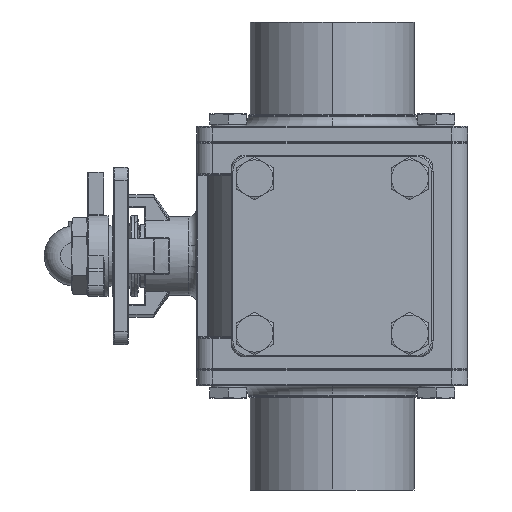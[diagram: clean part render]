
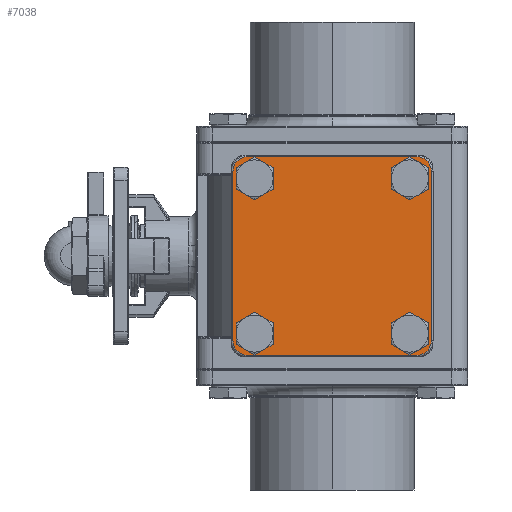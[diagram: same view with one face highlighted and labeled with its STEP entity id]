
A CAD part, left-side view. The second image highlights one B-rep face of the part: STEP entity #7038.
In plain terms, the highlighted planar face has unit normal (-1, 0, 0) as drawn and (0, 0, 1) by its records, which use the part's own axes.
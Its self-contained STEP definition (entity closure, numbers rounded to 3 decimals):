
#729 = ORIENTED_EDGE ( 'NONE', *, *, #22747, .F. ) ;
#739 = CARTESIAN_POINT ( 'NONE',  ( 48.083, -48.083, 10. ) ) ;
#744 = ORIENTED_EDGE ( 'NONE', *, *, #35145, .T. ) ;
#1346 = DIRECTION ( 'NONE',  ( 0., 0., 1. ) ) ;
#1520 = EDGE_LOOP ( 'NONE', ( #5071, #9667 ) ) ;
#1584 = EDGE_CURVE ( 'NONE', #9190, #19817, #22668, .T. ) ;
#1738 = CIRCLE ( 'NONE', #21308, 8.75 ) ;
#2297 = DIRECTION ( 'NONE',  ( 1., 0., 0. ) ) ;
#2320 = EDGE_LOOP ( 'NONE', ( #32993, #33520, #34199, #744, #34180, #22638, #8288, #18084 ) ) ;
#2540 = CARTESIAN_POINT ( 'NONE',  ( 39.333, -48.083, 10. ) ) ;
#2730 = DIRECTION ( 'NONE',  ( 1., 0., 0. ) ) ;
#2756 = CIRCLE ( 'NONE', #6470, 9. ) ;
#2841 = VERTEX_POINT ( 'NONE', #27853 ) ;
#3046 = FACE_BOUND ( 'NONE', #1520, .T. ) ;
#3450 = EDGE_CURVE ( 'NONE', #23758, #17624, #20880, .T. ) ;
#3503 = CARTESIAN_POINT ( 'NONE',  ( 52.5, -52.5, 10. ) ) ;
#4050 = DIRECTION ( 'NONE',  ( 0., -1., 0. ) ) ;
#4531 = CARTESIAN_POINT ( 'NONE',  ( -61.5, -52.5, 10. ) ) ;
#4603 = ORIENTED_EDGE ( 'NONE', *, *, #10682, .F. ) ;
#4753 = FACE_BOUND ( 'NONE', #28253, .T. ) ;
#4836 = AXIS2_PLACEMENT_3D ( 'NONE', #20680, #1346, #12302 ) ;
#5071 = ORIENTED_EDGE ( 'NONE', *, *, #5407, .F. ) ;
#5407 = EDGE_CURVE ( 'NONE', #19588, #32014, #23297, .T. ) ;
#6126 = LINE ( 'NONE', #16475, #15959 ) ;
#6422 = VERTEX_POINT ( 'NONE', #32007 ) ;
#6470 = AXIS2_PLACEMENT_3D ( 'NONE', #3503, #8950, #9071 ) ;
#6614 = EDGE_LOOP ( 'NONE', ( #4603, #24464 ) ) ;
#7038 = ADVANCED_FACE ( 'NONE', ( #27332, #10735, #4753, #3046, #11094 ), #27242, .T. ) ;
#7603 = CARTESIAN_POINT ( 'NONE',  ( -48.083, -48.083, 10. ) ) ;
#7764 = LINE ( 'NONE', #28462, #27828 ) ;
#7786 = DIRECTION ( 'NONE',  ( 1., 0., 0. ) ) ;
#7927 = CIRCLE ( 'NONE', #27683, 9. ) ;
#7944 = DIRECTION ( 'NONE',  ( 1., 0., 0. ) ) ;
#8288 = ORIENTED_EDGE ( 'NONE', *, *, #28904, .T. ) ;
#8350 = CARTESIAN_POINT ( 'NONE',  ( 52.5, -61.5, 10. ) ) ;
#8512 = LINE ( 'NONE', #31297, #31183 ) ;
#8607 = DIRECTION ( 'NONE',  ( 1., 0., 0. ) ) ;
#8826 = DIRECTION ( 'NONE',  ( 1., 0., 0. ) ) ;
#8950 = DIRECTION ( 'NONE',  ( 0., 0., 1. ) ) ;
#9071 = DIRECTION ( 'NONE',  ( 1., 0., 0. ) ) ;
#9096 = VERTEX_POINT ( 'NONE', #8350 ) ;
#9190 = VERTEX_POINT ( 'NONE', #30922 ) ;
#9667 = ORIENTED_EDGE ( 'NONE', *, *, #34666, .F. ) ;
#9671 = DIRECTION ( 'NONE',  ( -1., 0., 0. ) ) ;
#9679 = DIRECTION ( 'NONE',  ( 0., 0., 1. ) ) ;
#9751 = VECTOR ( 'NONE', #4050, 1000. ) ;
#10261 = CARTESIAN_POINT ( 'NONE',  ( -56.833, 48.083, 10. ) ) ;
#10541 = VERTEX_POINT ( 'NONE', #16600 ) ;
#10682 = EDGE_CURVE ( 'NONE', #24546, #10541, #29809, .T. ) ;
#10735 = FACE_BOUND ( 'NONE', #6614, .T. ) ;
#10879 = CARTESIAN_POINT ( 'NONE',  ( 48.083, 48.083, 10. ) ) ;
#11094 = FACE_BOUND ( 'NONE', #28350, .T. ) ;
#11117 = CARTESIAN_POINT ( 'NONE',  ( -48.083, 48.083, 10. ) ) ;
#11320 = CARTESIAN_POINT ( 'NONE',  ( 48.083, -48.083, 10. ) ) ;
#12230 = CARTESIAN_POINT ( 'NONE',  ( 52.5, 61.5, 10. ) ) ;
#12249 = EDGE_CURVE ( 'NONE', #29686, #13501, #7927, .T. ) ;
#12302 = DIRECTION ( 'NONE',  ( 1., 0., 0. ) ) ;
#12488 = AXIS2_PLACEMENT_3D ( 'NONE', #11117, #19498, #8607 ) ;
#13077 = EDGE_CURVE ( 'NONE', #10541, #24546, #22400, .T. ) ;
#13501 = VERTEX_POINT ( 'NONE', #12230 ) ;
#13540 = DIRECTION ( 'NONE',  ( 0., 0., 1. ) ) ;
#13617 = DIRECTION ( 'NONE',  ( 0., 0., 1. ) ) ;
#13720 = EDGE_CURVE ( 'NONE', #9096, #2841, #2756, .T. ) ;
#13788 = CARTESIAN_POINT ( 'NONE',  ( 61.5, 52.5, 10. ) ) ;
#14057 = ORIENTED_EDGE ( 'NONE', *, *, #27663, .F. ) ;
#14449 = AXIS2_PLACEMENT_3D ( 'NONE', #7603, #13540, #7944 ) ;
#14557 = DIRECTION ( 'NONE',  ( 0., 0., 1. ) ) ;
#14571 = VERTEX_POINT ( 'NONE', #33357 ) ;
#14862 = CARTESIAN_POINT ( 'NONE',  ( -61.5, -52.5, 10. ) ) ;
#15513 = ORIENTED_EDGE ( 'NONE', *, *, #26128, .F. ) ;
#15592 = CIRCLE ( 'NONE', #16885, 8.75 ) ;
#15959 = VECTOR ( 'NONE', #19238, 1000. ) ;
#16148 = CARTESIAN_POINT ( 'NONE',  ( 52.5, -52.5, 10. ) ) ;
#16475 = CARTESIAN_POINT ( 'NONE',  ( 52.5, -61.5, 10. ) ) ;
#16600 = CARTESIAN_POINT ( 'NONE',  ( -39.333, -48.083, 10. ) ) ;
#16885 = AXIS2_PLACEMENT_3D ( 'NONE', #27192, #24458, #24344 ) ;
#17287 = AXIS2_PLACEMENT_3D ( 'NONE', #18642, #32465, #2297 ) ;
#17624 = VERTEX_POINT ( 'NONE', #4531 ) ;
#17800 = CARTESIAN_POINT ( 'NONE',  ( 39.333, 48.083, 10. ) ) ;
#17944 = VERTEX_POINT ( 'NONE', #19051 ) ;
#17946 = CARTESIAN_POINT ( 'NONE',  ( 56.833, -48.083, 10. ) ) ;
#18084 = ORIENTED_EDGE ( 'NONE', *, *, #13720, .T. ) ;
#18642 = CARTESIAN_POINT ( 'NONE',  ( -52.5, 52.5, 10. ) ) ;
#19051 = CARTESIAN_POINT ( 'NONE',  ( -52.5, 61.5, 10. ) ) ;
#19067 = DIRECTION ( 'NONE',  ( 0., 0., 1. ) ) ;
#19238 = DIRECTION ( 'NONE',  ( 1., 0., 0. ) ) ;
#19498 = DIRECTION ( 'NONE',  ( 0., 0., 1. ) ) ;
#19588 = VERTEX_POINT ( 'NONE', #2540 ) ;
#19690 = DIRECTION ( 'NONE',  ( 1., 0., 0. ) ) ;
#19817 = VERTEX_POINT ( 'NONE', #17800 ) ;
#19841 = DIRECTION ( 'NONE',  ( 0., 0., 1. ) ) ;
#19845 = DIRECTION ( 'NONE',  ( 1., 0., 0. ) ) ;
#20680 = CARTESIAN_POINT ( 'NONE',  ( -48.083, -48.083, 10. ) ) ;
#20880 = LINE ( 'NONE', #14862, #9751 ) ;
#20957 = CIRCLE ( 'NONE', #17287, 9. ) ;
#21308 = AXIS2_PLACEMENT_3D ( 'NONE', #739, #14557, #19845 ) ;
#21333 = DIRECTION ( 'NONE',  ( 1., 0., 0. ) ) ;
#21569 = DIRECTION ( 'NONE',  ( 0., 0., 1. ) ) ;
#22059 = CARTESIAN_POINT ( 'NONE',  ( -52.5, -52.5, 10. ) ) ;
#22386 = CIRCLE ( 'NONE', #31174, 8.75 ) ;
#22400 = CIRCLE ( 'NONE', #14449, 8.75 ) ;
#22638 = ORIENTED_EDGE ( 'NONE', *, *, #30009, .T. ) ;
#22668 = CIRCLE ( 'NONE', #29836, 8.75 ) ;
#22747 = EDGE_CURVE ( 'NONE', #34925, #14571, #22386, .T. ) ;
#23297 = CIRCLE ( 'NONE', #27818, 8.75 ) ;
#23758 = VERTEX_POINT ( 'NONE', #24493 ) ;
#24344 = DIRECTION ( 'NONE',  ( 1., 0., 0. ) ) ;
#24458 = DIRECTION ( 'NONE',  ( 0., 0., 1. ) ) ;
#24464 = ORIENTED_EDGE ( 'NONE', *, *, #13077, .F. ) ;
#24493 = CARTESIAN_POINT ( 'NONE',  ( -61.5, 52.5, 10. ) ) ;
#24546 = VERTEX_POINT ( 'NONE', #33490 ) ;
#25497 = DIRECTION ( 'NONE',  ( 0., 1., 0. ) ) ;
#25978 = ORIENTED_EDGE ( 'NONE', *, *, #1584, .F. ) ;
#26128 = EDGE_CURVE ( 'NONE', #14571, #34925, #28085, .T. ) ;
#26409 = DIRECTION ( 'NONE',  ( 1., 0., 0. ) ) ;
#26684 = AXIS2_PLACEMENT_3D ( 'NONE', #22059, #19067, #2730 ) ;
#27192 = CARTESIAN_POINT ( 'NONE',  ( 48.083, 48.083, 10. ) ) ;
#27242 = PLANE ( 'NONE',  #33010 ) ;
#27332 = FACE_OUTER_BOUND ( 'NONE', #2320, .T. ) ;
#27663 = EDGE_CURVE ( 'NONE', #19817, #9190, #15592, .T. ) ;
#27683 = AXIS2_PLACEMENT_3D ( 'NONE', #31547, #9679, #26409 ) ;
#27818 = AXIS2_PLACEMENT_3D ( 'NONE', #11320, #19841, #8826 ) ;
#27828 = VECTOR ( 'NONE', #25497, 1000. ) ;
#27853 = CARTESIAN_POINT ( 'NONE',  ( 61.5, -52.5, 10. ) ) ;
#28085 = CIRCLE ( 'NONE', #12488, 8.75 ) ;
#28253 = EDGE_LOOP ( 'NONE', ( #14057, #25978 ) ) ;
#28350 = EDGE_LOOP ( 'NONE', ( #729, #15513 ) ) ;
#28366 = DIRECTION ( 'NONE',  ( 0., 0., 1. ) ) ;
#28462 = CARTESIAN_POINT ( 'NONE',  ( 61.5, 52.5, 10. ) ) ;
#28904 = EDGE_CURVE ( 'NONE', #6422, #9096, #6126, .T. ) ;
#29686 = VERTEX_POINT ( 'NONE', #13788 ) ;
#29809 = CIRCLE ( 'NONE', #4836, 8.75 ) ;
#29836 = AXIS2_PLACEMENT_3D ( 'NONE', #10879, #21569, #21333 ) ;
#30009 = EDGE_CURVE ( 'NONE', #17624, #6422, #35171, .T. ) ;
#30239 = EDGE_CURVE ( 'NONE', #2841, #29686, #7764, .T. ) ;
#30922 = CARTESIAN_POINT ( 'NONE',  ( 56.833, 48.083, 10. ) ) ;
#31174 = AXIS2_PLACEMENT_3D ( 'NONE', #33653, #28366, #19690 ) ;
#31183 = VECTOR ( 'NONE', #9671, 1000. ) ;
#31297 = CARTESIAN_POINT ( 'NONE',  ( -52.5, 61.5, 10. ) ) ;
#31547 = CARTESIAN_POINT ( 'NONE',  ( 52.5, 52.5, 10. ) ) ;
#32007 = CARTESIAN_POINT ( 'NONE',  ( -52.5, -61.5, 10. ) ) ;
#32014 = VERTEX_POINT ( 'NONE', #17946 ) ;
#32465 = DIRECTION ( 'NONE',  ( 0., 0., 1. ) ) ;
#32993 = ORIENTED_EDGE ( 'NONE', *, *, #30239, .T. ) ;
#33010 = AXIS2_PLACEMENT_3D ( 'NONE', #16148, #13617, #7786 ) ;
#33357 = CARTESIAN_POINT ( 'NONE',  ( -39.333, 48.083, 10. ) ) ;
#33490 = CARTESIAN_POINT ( 'NONE',  ( -56.833, -48.083, 10. ) ) ;
#33520 = ORIENTED_EDGE ( 'NONE', *, *, #12249, .T. ) ;
#33653 = CARTESIAN_POINT ( 'NONE',  ( -48.083, 48.083, 10. ) ) ;
#34180 = ORIENTED_EDGE ( 'NONE', *, *, #3450, .T. ) ;
#34199 = ORIENTED_EDGE ( 'NONE', *, *, #34784, .T. ) ;
#34666 = EDGE_CURVE ( 'NONE', #32014, #19588, #1738, .T. ) ;
#34784 = EDGE_CURVE ( 'NONE', #13501, #17944, #8512, .T. ) ;
#34925 = VERTEX_POINT ( 'NONE', #10261 ) ;
#35145 = EDGE_CURVE ( 'NONE', #17944, #23758, #20957, .T. ) ;
#35171 = CIRCLE ( 'NONE', #26684, 9. ) ;
